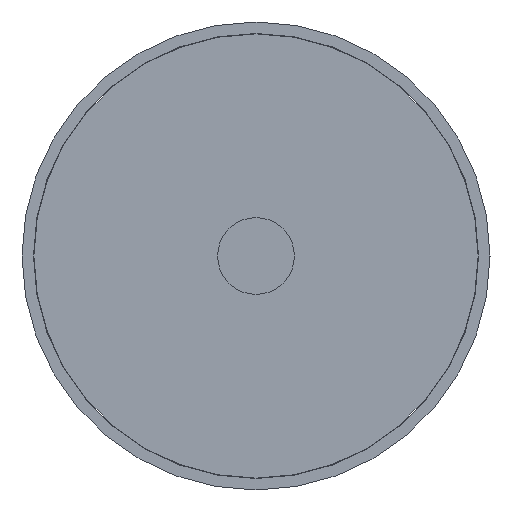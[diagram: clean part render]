
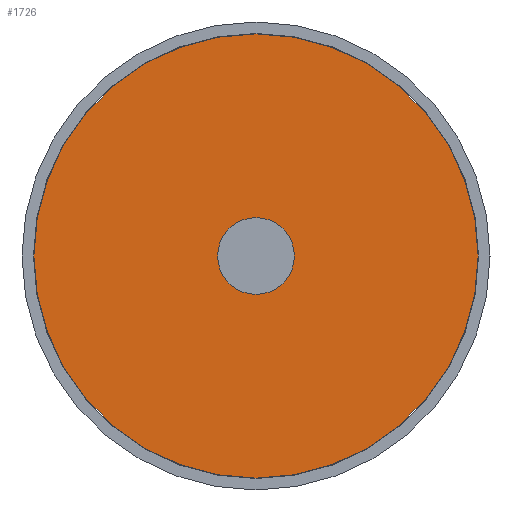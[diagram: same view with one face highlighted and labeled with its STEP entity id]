
A CAD part, left-side view. The second image highlights one B-rep face of the part: STEP entity #1726.
In plain terms, the highlighted planar face has unit normal (-1, 0, 0).
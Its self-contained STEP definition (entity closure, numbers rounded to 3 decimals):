
#1386 = CYLINDRICAL_SURFACE('',#1387,28.95);
#1387 = AXIS2_PLACEMENT_3D('',#1388,#1389,#1390);
#1388 = CARTESIAN_POINT('',(593.,0.,700.));
#1389 = DIRECTION('',(1.,0.,0.));
#1390 = DIRECTION('',(-0.,0.,1.));
#1531 = VERTEX_POINT('',#1532);
#1532 = CARTESIAN_POINT('',(593.,0.,728.95));
#1553 = EDGE_CURVE('',#1531,#1531,#1554,.T.);
#1554 = SURFACE_CURVE('',#1555,(#1560,#1567),.PCURVE_S1.);
#1555 = CIRCLE('',#1556,28.95);
#1556 = AXIS2_PLACEMENT_3D('',#1557,#1558,#1559);
#1557 = CARTESIAN_POINT('',(593.,0.,700.));
#1558 = DIRECTION('',(1.,0.,0.));
#1559 = DIRECTION('',(-0.,0.,1.));
#1560 = PCURVE('',#1386,#1561);
#1561 = DEFINITIONAL_REPRESENTATION('',(#1562),#1566);
#1562 = LINE('',#1563,#1564);
#1563 = CARTESIAN_POINT('',(0.,0.));
#1564 = VECTOR('',#1565,1.);
#1565 = DIRECTION('',(1.,0.));
#1566 = ( GEOMETRIC_REPRESENTATION_CONTEXT(2) 
PARAMETRIC_REPRESENTATION_CONTEXT() REPRESENTATION_CONTEXT('2D SPACE',''
  ) );
#1567 = PCURVE('',#1568,#1573);
#1568 = PLANE('',#1569);
#1569 = AXIS2_PLACEMENT_3D('',#1570,#1571,#1572);
#1570 = CARTESIAN_POINT('',(593.,0.,700.));
#1571 = DIRECTION('',(1.,0.,0.));
#1572 = DIRECTION('',(-0.,0.,1.));
#1573 = DEFINITIONAL_REPRESENTATION('',(#1574),#1578);
#1574 = CIRCLE('',#1575,28.95);
#1575 = AXIS2_PLACEMENT_2D('',#1576,#1577);
#1576 = CARTESIAN_POINT('',(0.,0.));
#1577 = DIRECTION('',(1.,0.));
#1578 = ( GEOMETRIC_REPRESENTATION_CONTEXT(2) 
PARAMETRIC_REPRESENTATION_CONTEXT() REPRESENTATION_CONTEXT('2D SPACE',''
  ) );
#1726 = ADVANCED_FACE('',(#1727,#1730),#1568,.F.);
#1727 = FACE_BOUND('',#1728,.F.);
#1728 = EDGE_LOOP('',(#1729));
#1729 = ORIENTED_EDGE('',*,*,#1553,.T.);
#1730 = FACE_BOUND('',#1731,.F.);
#1731 = EDGE_LOOP('',(#1732));
#1732 = ORIENTED_EDGE('',*,*,#1733,.F.);
#1733 = EDGE_CURVE('',#1734,#1734,#1736,.T.);
#1734 = VERTEX_POINT('',#1735);
#1735 = CARTESIAN_POINT('',(593.,0.,705.));
#1736 = SURFACE_CURVE('',#1737,(#1742,#1749),.PCURVE_S1.);
#1737 = CIRCLE('',#1738,5.);
#1738 = AXIS2_PLACEMENT_3D('',#1739,#1740,#1741);
#1739 = CARTESIAN_POINT('',(593.,0.,700.));
#1740 = DIRECTION('',(1.,0.,0.));
#1741 = DIRECTION('',(-0.,0.,1.));
#1742 = PCURVE('',#1568,#1743);
#1743 = DEFINITIONAL_REPRESENTATION('',(#1744),#1748);
#1744 = CIRCLE('',#1745,5.);
#1745 = AXIS2_PLACEMENT_2D('',#1746,#1747);
#1746 = CARTESIAN_POINT('',(0.,0.));
#1747 = DIRECTION('',(1.,0.));
#1748 = ( GEOMETRIC_REPRESENTATION_CONTEXT(2) 
PARAMETRIC_REPRESENTATION_CONTEXT() REPRESENTATION_CONTEXT('2D SPACE',''
  ) );
#1749 = PCURVE('',#1750,#1755);
#1750 = CYLINDRICAL_SURFACE('',#1751,5.);
#1751 = AXIS2_PLACEMENT_3D('',#1752,#1753,#1754);
#1752 = CARTESIAN_POINT('',(525.,0.,700.));
#1753 = DIRECTION('',(1.,0.,0.));
#1754 = DIRECTION('',(-0.,0.,1.));
#1755 = DEFINITIONAL_REPRESENTATION('',(#1756),#1760);
#1756 = LINE('',#1757,#1758);
#1757 = CARTESIAN_POINT('',(0.,68.));
#1758 = VECTOR('',#1759,1.);
#1759 = DIRECTION('',(1.,0.));
#1760 = ( GEOMETRIC_REPRESENTATION_CONTEXT(2) 
PARAMETRIC_REPRESENTATION_CONTEXT() REPRESENTATION_CONTEXT('2D SPACE',''
  ) );
